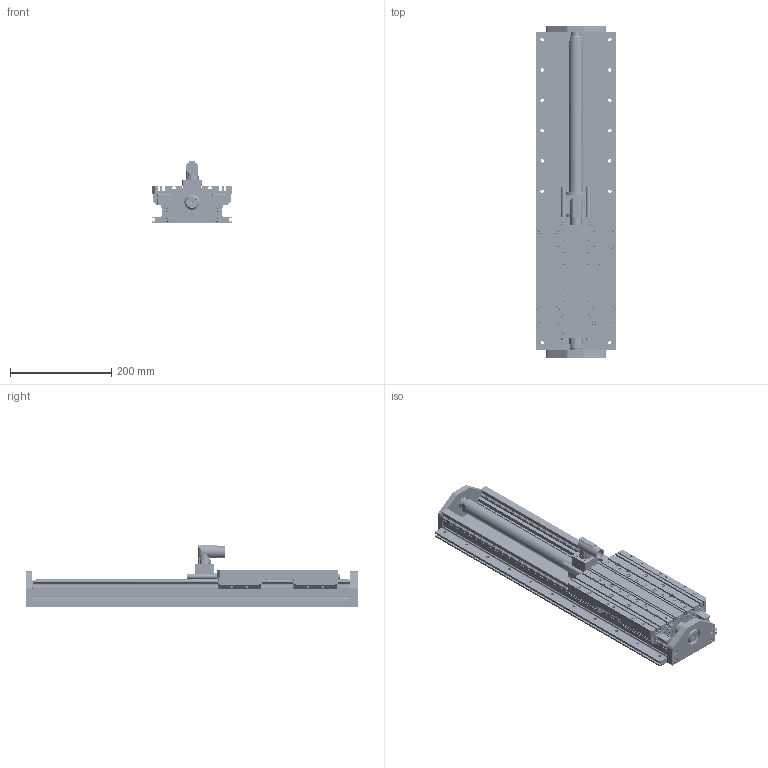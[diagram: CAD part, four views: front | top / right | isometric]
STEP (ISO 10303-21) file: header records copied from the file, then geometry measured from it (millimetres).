
FILE_DESCRIPTION(/* description */ (''),/* implementation_level */ '2;1');
FILE_NAME(/* name */ 'V:\CAD\Inventor-Stp\Linearmotorelement\GLMA 48-240\5000062.stp',/* time_stamp */ '2024-10-22T08:10:40+02:00',/* author */ ('ul'),/* organization */ (''),/* preprocessor_version */ 'ST-DEVELOPER v17',/* originating_system */ 'Autodesk Inventor 2018',/* authorisation */ '');
FILE_SCHEMA (('AUTOMOTIVE_DESIGN { 1 0 10303 214 3 1 1 }'));
Products named in the file (1): 5000062
Bounding box: 160 x 657 x 121.5 mm (x, y, z)
Volume: 3484940.5 mm3; surface area: 865273.4 mm2
Topology: 5 solids, 136 shells, 4377 faces, 12570 edges, 8504 vertices
Faces by surface type: plane 2948, cylinder 1077, cone 239, torus 112, bspline 1
Full cylindrical faces by diameter (mm): 3.242 x54, 3.3 x4, 3.5 x4, 4 x74, 4.134 x16, 4.5 x74, 4.917 x20, 5 x16, 5.5 x32, 6 x12, 6.5 x8, 6.647 x22, 7 x72, 7.5 x32, 8 x32, 8.376 x2, 8.5 x16, 9 x28, 9.5 x8, 10 x14, 10.4 x1, 10.5 x12, 12 x1, 19 x1, 20 x2, 20.4 x1, 21 x2, 22 x2, 25 x1, 25.5 x1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
Entity records: 151022 total; most frequent: CARTESIAN_POINT 28761, ORIENTED_EDGE 24888, DIRECTION 24536, EDGE_CURVE 12444, VERTEX_POINT 8504, AXIS2_PLACEMENT_3D 8282, LINE 7972, VECTOR 7972
